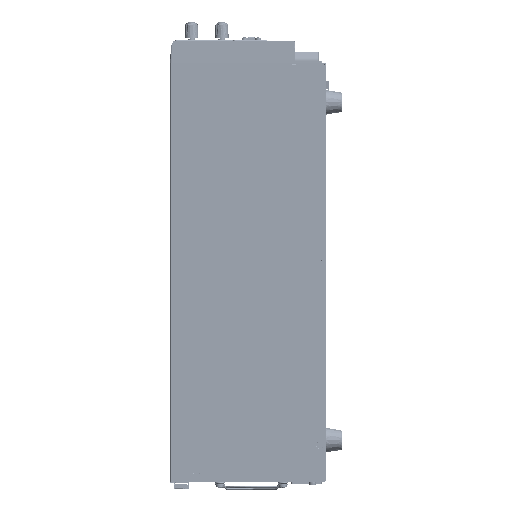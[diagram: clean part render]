
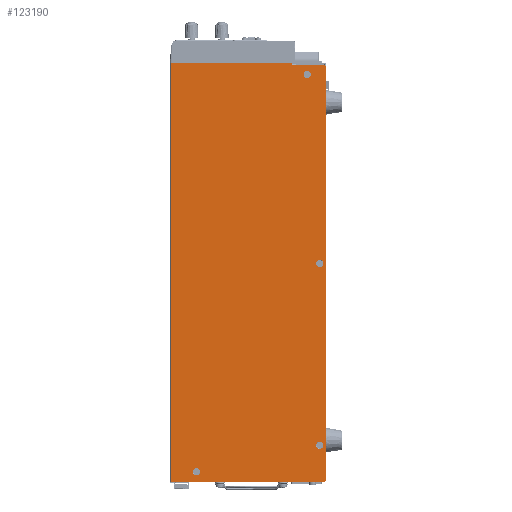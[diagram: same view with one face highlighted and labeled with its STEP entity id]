
A CAD part, left-side view. The second image highlights one B-rep face of the part: STEP entity #123190.
In plain terms, the highlighted planar face has unit normal (-1, 0, 0).
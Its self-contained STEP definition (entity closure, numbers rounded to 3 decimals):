
#26212=DIRECTION('',(0.,-1.,0.));
#26213=VECTOR('',#26212,4.744);
#26214=CARTESIAN_POINT('',(-1.386,4.843,
-13.091));
#26215=LINE('',#26214,#26213);
#26225=DIRECTION('',(0.,0.,-1.));
#26226=VECTOR('',#26225,13.091);
#26227=CARTESIAN_POINT('',(-1.386,4.843,0.));
#26228=LINE('',#26227,#26226);
#26233=CARTESIAN_POINT('',(-1.386,4.055,
-12.756));
#26234=DIRECTION('',(-1.,0.,0.));
#26235=DIRECTION('',(0.,1.,0.));
#26236=AXIS2_PLACEMENT_3D('',#26233,#26234,#26235);
#26238=CARTESIAN_POINT('',(-1.386,4.055,
-12.756));
#26239=DIRECTION('',(-1.,0.,0.));
#26240=DIRECTION('',(0.,-1.,0.));
#26241=AXIS2_PLACEMENT_3D('',#26238,#26239,#26240);
#26243=CARTESIAN_POINT('',(-1.386,0.205,
-11.929));
#26244=DIRECTION('',(-1.,0.,0.));
#26245=DIRECTION('',(0.,1.,0.));
#26246=AXIS2_PLACEMENT_3D('',#26243,#26244,#26245);
#26248=CARTESIAN_POINT('',(-1.386,0.205,
-11.929));
#26249=DIRECTION('',(-1.,0.,0.));
#26250=DIRECTION('',(0.,-1.,0.));
#26251=AXIS2_PLACEMENT_3D('',#26248,#26249,#26250);
#26253=CARTESIAN_POINT('',(-1.386,0.598,
-0.354));
#26254=DIRECTION('',(-1.,0.,0.));
#26255=DIRECTION('',(0.,1.,0.));
#26256=AXIS2_PLACEMENT_3D('',#26253,#26254,#26255);
#26258=CARTESIAN_POINT('',(-1.386,0.598,
-0.354));
#26259=DIRECTION('',(-1.,0.,0.));
#26260=DIRECTION('',(0.,-1.,0.));
#26261=AXIS2_PLACEMENT_3D('',#26258,#26259,#26260);
#26263=CARTESIAN_POINT('',(-1.386,0.205,
-6.26));
#26264=DIRECTION('',(-1.,0.,0.));
#26265=DIRECTION('',(0.,1.,0.));
#26266=AXIS2_PLACEMENT_3D('',#26263,#26264,#26265);
#26268=CARTESIAN_POINT('',(-1.386,0.205,
-6.26));
#26269=DIRECTION('',(-1.,0.,0.));
#26270=DIRECTION('',(0.,-1.,0.));
#26271=AXIS2_PLACEMENT_3D('',#26268,#26269,#26270);
#26273=DIRECTION('',(0.,0.,-1.));
#26274=VECTOR('',#26273,0.051);
#26275=CARTESIAN_POINT('',(-1.386,1.087,0.));
#26276=LINE('',#26275,#26274);
#26277=CARTESIAN_POINT('',(-1.386,0.098,
-0.13));
#26278=DIRECTION('',(1.,0.,0.));
#26279=DIRECTION('',(0.,0.,1.));
#26280=AXIS2_PLACEMENT_3D('',#26277,#26278,#26279);
#26282=DIRECTION('',(0.,0.,-1.));
#26283=VECTOR('',#26282,12.882);
#26284=CARTESIAN_POINT('',(-1.386,0.02,
-0.13));
#26285=LINE('',#26284,#26283);
#26286=CARTESIAN_POINT('',(-1.386,0.098,
-13.012));
#26287=DIRECTION('',(1.,0.,0.));
#26288=DIRECTION('',(0.,-1.,0.));
#26289=AXIS2_PLACEMENT_3D('',#26286,#26287,#26288);
#26291=DIRECTION('',(0.,-1.,0.));
#26292=VECTOR('',#26291,3.756);
#26293=CARTESIAN_POINT('',(-1.386,4.843,0.));
#26294=LINE('',#26293,#26292);
#27023=DIRECTION('',(0.,1.,0.));
#27024=VECTOR('',#27023,0.988);
#27025=CARTESIAN_POINT('',(-1.386,0.098,
-0.051));
#27026=LINE('',#27025,#27024);
#75530=CARTESIAN_POINT('',(-1.386,0.098,
-0.051));
#75531=CARTESIAN_POINT('',(-1.386,0.02,
-0.13));
#75532=VERTEX_POINT('',#75530);
#75533=VERTEX_POINT('',#75531);
#75534=CARTESIAN_POINT('',(-1.386,0.02,
-13.012));
#75535=VERTEX_POINT('',#75534);
#75536=CARTESIAN_POINT('',(-1.386,0.098,
-13.091));
#75537=VERTEX_POINT('',#75536);
#75538=CARTESIAN_POINT('',(-1.386,4.843,
-13.091));
#75539=VERTEX_POINT('',#75538);
#75540=CARTESIAN_POINT('',(-1.386,1.087,
-0.051));
#75541=VERTEX_POINT('',#75540);
#75542=CARTESIAN_POINT('',(-1.386,4.169,
-12.756));
#75543=CARTESIAN_POINT('',(-1.386,3.941,
-12.756));
#75544=VERTEX_POINT('',#75542);
#75545=VERTEX_POINT('',#75543);
#75546=CARTESIAN_POINT('',(-1.386,0.319,
-11.929));
#75547=CARTESIAN_POINT('',(-1.386,0.091,
-11.929));
#75548=VERTEX_POINT('',#75546);
#75549=VERTEX_POINT('',#75547);
#75550=CARTESIAN_POINT('',(-1.386,0.712,
-0.354));
#75551=CARTESIAN_POINT('',(-1.386,0.485,
-0.354));
#75552=VERTEX_POINT('',#75550);
#75553=VERTEX_POINT('',#75551);
#75554=CARTESIAN_POINT('',(-1.386,0.319,
-6.26));
#75555=CARTESIAN_POINT('',(-1.386,0.091,
-6.26));
#75556=VERTEX_POINT('',#75554);
#75557=VERTEX_POINT('',#75555);
#84573=CARTESIAN_POINT('',(-1.386,4.843,0.));
#84574=CARTESIAN_POINT('',(-1.386,1.087,0.));
#84575=VERTEX_POINT('',#84573);
#84576=VERTEX_POINT('',#84574);
#123146=CARTESIAN_POINT('',(-1.386,4.843,0.));
#123147=DIRECTION('',(-1.,0.,0.));
#123148=DIRECTION('',(0.,-1.,0.));
#123149=AXIS2_PLACEMENT_3D('',#123146,#123147,#123148);
#123150=PLANE('',#123149);
#123152=ORIENTED_EDGE('',*,*,#123151,.T.);
#123154=ORIENTED_EDGE('',*,*,#123153,.F.);
#123156=ORIENTED_EDGE('',*,*,#123155,.T.);
#123158=ORIENTED_EDGE('',*,*,#123157,.T.);
#123160=ORIENTED_EDGE('',*,*,#123159,.T.);
#123161=ORIENTED_EDGE('',*,*,#123119,.F.);
#123162=ORIENTED_EDGE('',*,*,#123138,.F.);
#123163=ORIENTED_EDGE('',*,*,#91258,.T.);
#123164=EDGE_LOOP('',(#123152,#123154,#123156,#123158,#123160,#123161,#123162,
#123163));
#123165=FACE_OUTER_BOUND('',#123164,.F.);
#123167=ORIENTED_EDGE('',*,*,#123166,.T.);
#123169=ORIENTED_EDGE('',*,*,#123168,.T.);
#123170=EDGE_LOOP('',(#123167,#123169));
#123171=FACE_BOUND('',#123170,.F.);
#123173=ORIENTED_EDGE('',*,*,#123172,.T.);
#123175=ORIENTED_EDGE('',*,*,#123174,.T.);
#123176=EDGE_LOOP('',(#123173,#123175));
#123177=FACE_BOUND('',#123176,.F.);
#123179=ORIENTED_EDGE('',*,*,#123178,.T.);
#123181=ORIENTED_EDGE('',*,*,#123180,.T.);
#123182=EDGE_LOOP('',(#123179,#123181));
#123183=FACE_BOUND('',#123182,.F.);
#123185=ORIENTED_EDGE('',*,*,#123184,.T.);
#123187=ORIENTED_EDGE('',*,*,#123186,.T.);
#123188=EDGE_LOOP('',(#123185,#123187));
#123189=FACE_BOUND('',#123188,.F.);
#123190=ADVANCED_FACE('',(#123165,#123171,#123177,#123183,#123189),#123150,.T.);
#26237=CIRCLE('',#26236,0.114);
#26242=CIRCLE('',#26241,0.114);
#26247=CIRCLE('',#26246,0.114);
#26252=CIRCLE('',#26251,0.114);
#26257=CIRCLE('',#26256,0.114);
#26262=CIRCLE('',#26261,0.114);
#26267=CIRCLE('',#26266,0.114);
#26272=CIRCLE('',#26271,0.114);
#26281=CIRCLE('',#26280,0.079);
#26290=CIRCLE('',#26289,0.079);
#91258=EDGE_CURVE('',#84575,#84576,#26294,.T.);
#123119=EDGE_CURVE('',#75539,#75537,#26215,.T.);
#123138=EDGE_CURVE('',#84575,#75539,#26228,.T.);
#123151=EDGE_CURVE('',#84576,#75541,#26276,.T.);
#123153=EDGE_CURVE('',#75532,#75541,#27026,.T.);
#123155=EDGE_CURVE('',#75532,#75533,#26281,.T.);
#123157=EDGE_CURVE('',#75533,#75535,#26285,.T.);
#123159=EDGE_CURVE('',#75535,#75537,#26290,.T.);
#123166=EDGE_CURVE('',#75548,#75549,#26247,.T.);
#123168=EDGE_CURVE('',#75549,#75548,#26252,.T.);
#123172=EDGE_CURVE('',#75552,#75553,#26257,.T.);
#123174=EDGE_CURVE('',#75553,#75552,#26262,.T.);
#123178=EDGE_CURVE('',#75556,#75557,#26267,.T.);
#123180=EDGE_CURVE('',#75557,#75556,#26272,.T.);
#123184=EDGE_CURVE('',#75544,#75545,#26237,.T.);
#123186=EDGE_CURVE('',#75545,#75544,#26242,.T.);
